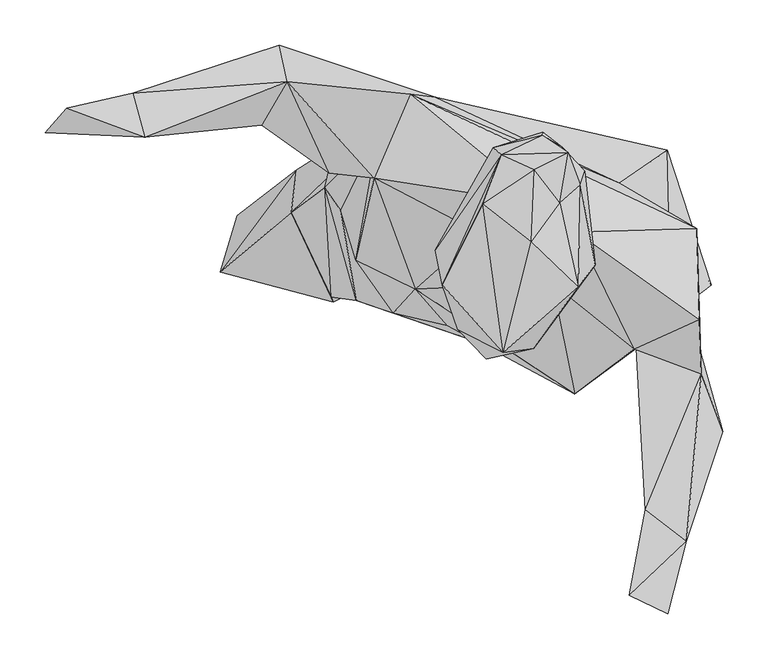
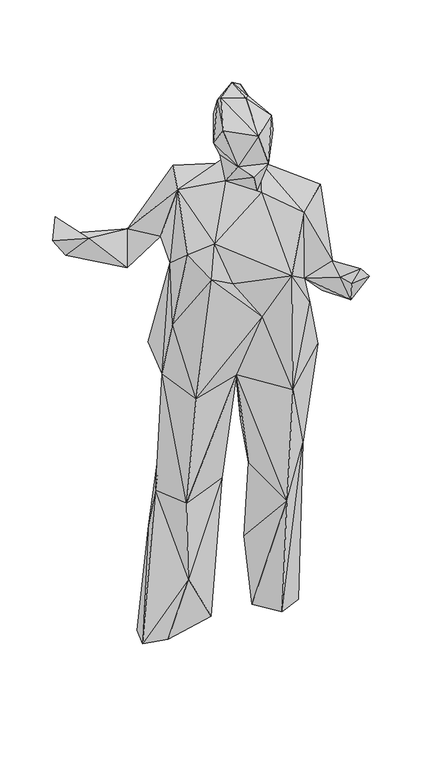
"""IFC4 building model written with IfcOpenShell, lengths in millimetres: geographic element geometry, Enscape AssetDefinition - Aamina 002 Standing : Enscape AssetDefinition - Aamina 002 Standing."""

import ifcopenshell
import ifcopenshell.guid

model = None  # the IFC model being written
_history = None  # IfcOwnerHistory: only IFC2X3 demands one
_inside = {}  # id of a spatial element -> (the spatial element, [elements in it])
_under = {}  # id of a project, library or spatial element -> (it, [spatial elements below it])
_declared = {}  # id of a project -> (the project, [libraries it declares])
_typed = {}  # id of a type object -> (the type object, [elements of that type])
_made_of = {}  # id of a material, layer set ... -> (it, [elements and type objects made of it])


def new_model(schema):
    """Start an empty IFC model of exactly this schema.

    Asked for "IFC4X3", IfcOpenShell would pick the latest addendum, in which some entities
    have other attributes; the version numbers below select the first issue.
    IFC2X3 requires an IfcOwnerHistory on every rooted entity: one is made here for all.
    """
    global model, _history
    if schema == "IFC4X3":
        model = ifcopenshell.file(schema_version=(4, 3, 0, 0))
    else:
        model = ifcopenshell.file(schema=schema)
    _inside.clear()
    _under.clear()
    _declared.clear()
    _typed.clear()
    _made_of.clear()
    _history = None
    if model.schema == "IFC2X3":
        org = make("IfcOrganization", Name="unknown")
        user = make(
            "IfcPersonAndOrganization",
            ThePerson=make("IfcPerson", FamilyName="unknown"),
            TheOrganization=org,
        )
        app = make(
            "IfcApplication",
            ApplicationDeveloper=org,
            Version="unknown",
            ApplicationFullName="unknown",
            ApplicationIdentifier="unknown",
        )
        _history = make(
            "IfcOwnerHistory",
            OwningUser=user,
            OwningApplication=app,
            ChangeAction="ADDED",
            CreationDate=0,
        )
    return model


def make(cls, **values):
    """One entity of the class cls with the attributes given. An attribute that is None is left unset."""
    return model.create_entity(
        cls, **{name: value for name, value in values.items() if value is not None}
    )


def rooted(cls, **values):
    """An entity with a GlobalId (a new one), such as an element, a storey or a relation."""
    return make(cls, GlobalId=ifcopenshell.guid.new(), OwnerHistory=_history, **values)


def si_unit(unit_type, name, prefix=None):
    """IfcSIUnit, for example si_unit("LENGTHUNIT", "METRE", prefix="MILLI")."""
    return make("IfcSIUnit", UnitType=unit_type, Prefix=prefix, Name=name)


def assignment(units):
    """IfcUnitAssignment: the units of a project."""
    return None if units is None else make("IfcUnitAssignment", Units=units)


def point(xyz):
    """IfcCartesianPoint."""
    return None if xyz is None else make("IfcCartesianPoint", Coordinates=xyz)


def direction(xyz):
    """IfcDirection."""
    return None if xyz is None else make("IfcDirection", DirectionRatios=xyz)


def frame(location, z_axis=None, x_axis=None):
    """IfcAxis2Placement3D, a coordinate frame: its origin and axes. An axis left out is left unset."""
    return make(
        "IfcAxis2Placement3D",
        Location=point(location),
        Axis=direction(z_axis),
        RefDirection=direction(x_axis),
    )


def origin():
    """The frame at (0, 0, 0) with its axes left unset."""
    return frame((0.0, 0.0, 0.0))


def place(relative_to, where):
    """IfcLocalPlacement: puts the frame where relative to a parent placement (None: the world)."""
    return make(
        "IfcLocalPlacement", PlacementRelTo=relative_to, RelativePlacement=where
    )


def context(
    kind, dimensions, precision=None, world=None, true_north=None, identifier=None
):
    """IfcGeometricRepresentationContext, for example the 3D "Model" context."""
    return make(
        "IfcGeometricRepresentationContext",
        ContextIdentifier=identifier,
        ContextType=kind,
        CoordinateSpaceDimension=dimensions,
        Precision=precision,
        WorldCoordinateSystem=world,
        TrueNorth=true_north,
    )


def project(units=None, contexts=None):
    """IfcProject with its units and contexts."""
    return rooted(
        "IfcProject",
        Name="project",
        RepresentationContexts=contexts,
        UnitsInContext=assignment(units),
    )


def spatial(cls, under=None, at=None, **own):
    """A site, building, storey or space (cls), placed at a placement, below another one or the project."""
    s = rooted(cls, ObjectPlacement=at, **own)
    if under is not None:
        _under.setdefault(under.id(), (under, []))[1].append(s)
    return s


def point_list(points):
    """IfcCartesianPointList2D or 3D."""
    cls = (
        "IfcCartesianPointList2D" if len(points[0]) == 2 else "IfcCartesianPointList3D"
    )
    return make(cls, CoordList=points)


def triangles(points, corners, closed=None, point_numbers=None):
    """IfcTriangulatedFaceSet: each triangle names its three corners, points numbered from 1."""
    return make(
        "IfcTriangulatedFaceSet",
        Coordinates=point_list(points),
        Closed=closed,
        CoordIndex=corners,
        PnIndex=point_numbers,
    )


def shape(context_of_items, identifier, shape_type, items):
    """IfcShapeRepresentation: the items that make up one representation, for example the "Body"."""
    return make(
        "IfcShapeRepresentation",
        ContextOfItems=context_of_items,
        RepresentationIdentifier=identifier,
        RepresentationType=shape_type,
        Items=items,
    )


def source(mapping_origin, context_of_items, identifier, shape_type, items):
    """IfcRepresentationMap: a shape defined once, which mapped items show again and again."""
    return make(
        "IfcRepresentationMap",
        MappingOrigin=mapping_origin,
        MappedRepresentation=shape(context_of_items, identifier, shape_type, items),
    )


def transform(
    local_origin,
    x_axis=None,
    y_axis=None,
    z_axis=None,
    scale=None,
    scale2=None,
    scale3=None,
    uniform=True,
):
    """IfcCartesianTransformationOperator3D, or its non-uniform kind. x_axis, y_axis, z_axis: its Axis1, 2, 3."""
    if uniform:
        return make(
            "IfcCartesianTransformationOperator3D",
            Axis1=direction(x_axis),
            Axis2=direction(y_axis),
            LocalOrigin=point(local_origin),
            Scale=scale,
            Axis3=direction(z_axis),
        )
    return make(
        "IfcCartesianTransformationOperator3DnonUniform",
        Axis1=direction(x_axis),
        Axis2=direction(y_axis),
        LocalOrigin=point(local_origin),
        Scale=scale,
        Axis3=direction(z_axis),
        Scale2=scale2,
        Scale3=scale3,
    )


def mapped(mapping_source, mapping_target):
    """IfcMappedItem: shows the shape of a source again, moved by a transform."""
    return make(
        "IfcMappedItem", MappingSource=mapping_source, MappingTarget=mapping_target
    )


def made_of(thing, what):
    """Note that an element or type object is made of a material, layer set ...; save() writes the relation."""
    if what is not None:
        _made_of.setdefault(what.id(), (what, []))[1].append(thing)
    return thing


def element(
    cls,
    number,
    at=None,
    inside=None,
    cuts=None,
    type_object=None,
    material=None,
    context=None,
    identifier="Body",
    shape_type=None,
    held_by="IfcProductDefinitionShape",
    body=None,
    shapes=None,
    **own,
):
    """One element of the class cls, such as IfcWall. Its Tag is "e" and its number.

    at: its placement. inside: the storey or other place that contains it. cuts: it is an
    opening in that element (IfcRelVoidsElement). A single representation is given by context,
    identifier, shape_type and body (its items); several are given by shapes. held_by: the class
    of the entity that holds the representations. save() writes the other relations.
    """
    e = rooted(cls, Tag="e%d" % number, ObjectPlacement=at, **own)
    if body is not None:
        shapes = [shape(context, identifier, shape_type, body)]
    if shapes is not None:
        e.Representation = make(held_by, Representations=shapes)
    if inside is not None:
        _inside.setdefault(inside.id(), (inside, []))[1].append(e)
    if cuts is not None:
        rooted(
            "IfcRelVoidsElement", RelatingBuildingElement=cuts, RelatedOpeningElement=e
        )
    if type_object is not None:
        _typed.setdefault(type_object.id(), (type_object, []))[1].append(e)
    return made_of(e, material)


def aggregate(whole, parts):
    """IfcRelAggregates: a whole, such as a stair, and the parts it consists of."""
    return rooted("IfcRelAggregates", RelatingObject=whole, RelatedObjects=parts)


def save(model, path):
    """Write the relations noted so far, then the file.

    IfcRelAggregates (storeys below a building ...), IfcRelContainedInSpatialStructure (elements
    in a storey), IfcRelDefinesByType, IfcRelAssociatesMaterial and IfcRelDeclares: one each for
    every whole, place, type object, material and project.
    """
    for whole, parts in _under.values():
        aggregate(whole, parts)
    for where, things in _inside.values():
        rooted(
            "IfcRelContainedInSpatialStructure",
            RelatedElements=things,
            RelatingStructure=where,
        )
    for kind, things in _typed.values():
        rooted("IfcRelDefinesByType", RelatedObjects=things, RelatingType=kind)
    for what, things in _made_of.values():
        rooted("IfcRelAssociatesMaterial", RelatedObjects=things, RelatingMaterial=what)
    for by, libraries in _declared.values():
        rooted("IfcRelDeclares", RelatingContext=by, RelatedDefinitions=libraries)
    model.write(path)


def geographic_element_7a6157a8(model_context):
    return source(origin(), model_context, "Body", "Tessellation", [
        triangles([(-286.2879032, 56.8786548, 0.0), (-267.5059646, 119.5662847, 0.0), (-156.4158523, 142.5589582, 0.0), (-215.3267368, 40.3248687, 0.0), (-207.8792081, 122.7778165, 444.6567613), (-59.374251, 76.7767635, 0.0), (-161.0547588, 23.2634647, 190.6951007), (-117.2020394, 167.8458777, 213.0751664), (-10.1413096, 101.2964514, 430.1234914), (56.8422199, 145.2798223, 753.9010757), (-201.9893241, 169.8431577, 297.1838406), (-12.6399557, 206.8867541, 695.1432524), (-163.4001825, 28.8436337, 441.2960652), (-170.4568738, 150.3840529, 802.3141817), (-139.23794, 280.7448731, 820.0744349), (-152.64795, 124.6617494, 977.7834131), (-135.6502502, 25.0715143, 783.5436705), (-14.7996973, 11.9191115, 828.7244883), (-111.3427223, 209.279486, 1117.3052748), (-94.3609191, 11.3115643, 1174.4711168), (-34.471263, -2.7062611, 1147.7651888), (107.3156607, -79.1267472, 1172.5502312), (39.3175084, -35.0512081, 1032.095941), (109.5417694, 101.1116971, 1444.3558788), (175.653141, -28.4830407, 1109.0399363), (173.207687, -28.8832638, 1330.3642902), (37.2887396, -8.2387311, 1436.6230659), (82.0994037, 44.1557123, 1384.4877308), (-69.8507418, 37.6706317, 1270.2697025), (61.8573162, -28.1801772, 1532.2358345), (8.9910545, -40.2790049, 1511.771386), (-22.4942415, -7.0787768, 1536.4992371), (-24.568445, 86.9169421, 1520.3403397), (27.9975916, -32.8678748, 1636.7080914), (90.6410698, 133.9305151, 1648.7143353), (58.9510074, 90.1676431, 1677.9605152), (110.94549, 40.5695395, 1634.1130463), (5.110009, 132.3684284, 1672.2771412), (-40.0749249, 42.0651195, 1633.559301), (25.4979054, 186.8710427, 1625.8168957), (62.4072145, 170.5536158, 1682.3144646), (99.9304011, 188.983868, 1650.8118816), (113.5096685, 153.553963, 1612.6806335), (71.0433335, 208.844865, 1602.3581532), (93.424094, 195.0957406, 1587.2375645), (16.7899749, 194.5312765, 1577.5987633), (4.0860512, 169.7161124, 1537.636813), (71.9386776, 211.8643754, 1549.032629), (108.7847934, 155.4522301, 1528.5330082), (62.6628267, 177.8762429, 1526.286779), (118.4584762, 168.4634999, 1567.1037643), (129.8197195, 64.0531397, 1564.8475067), (3.8723557, 150.3383072, 1494.7948059), (-47.8224398, 81.0091632, 1573.0034042), (82.6886029, 144.9010119, 1480.699736), (42.3561628, 136.4260931, 1476.1767563), (-75.4188976, 254.1636467, 1402.257431), (0.6947649, 100.6713987, 1416.3741566), (-136.1923229, 69.8127809, 1237.2227371), (209.7489886, 192.2548529, 797.4733435), (-115.4291189, 161.1116412, 1391.1970596), (-165.310967, 166.632725, 1249.7886852), (-240.3617276, 219.8855065, 1138.4393045), (-370.423211, 206.7659039, 1290.3330128), (-428.9591002, 229.2330827, 1241.4535835), (-383.5343293, 255.2413063, 1283.954187), (-457.1522558, 238.7697463, 1373.0606667), (-212.2938187, 267.8703319, 1229.2784546), (-220.9764828, 308.8370719, 1118.2254221), (-481.0519598, 211.2048227, 1318.4757717), (-47.6295146, 250.7575501, 1283.4222427), (156.7023718, 155.6133395, 1022.2088264), (214.4395998, 8.5669235, 992.5690659), (-74.8191477, 249.8812955, 820.559071), (127.8470928, -49.0089181, 766.3193584), (189.2653188, 52.0506292, 1177.0868002), (242.6580082, 104.6864425, 1292.9338715), (203.0505421, -234.100827, 1152.5053064), (185.2511016, -207.7346312, 1216.6202156), (247.6086508, -56.4487892, 1158.9484451), (241.0500213, -11.6838163, 1036.0740412), (245.5668059, 3.820177, 1377.8922031), (271.812297, -120.7747865, 1134.9557962), (230.9868819, -242.6573905, 1251.6035454), (210.4373368, -323.1660301, 1282.3106827), (167.549693, -302.5486113, 1258.6621262), (216.2820927, 127.064537, 582.4627393), (193.3653048, 10.9315729, 529.5843535), (258.8642319, 41.9606973, 818.1677198), (74.9894225, 146.3112274, 568.9655617), (188.3706242, 164.8930964, 801.2968746), (138.7494797, 183.5688642, 403.1746639), (146.588963, 183.6822112, 0.0), (52.1605925, 64.7765694, 481.3182226), (98.0646719, 168.9325483, 157.1700032), (119.5361084, -30.3658405, 388.0792554), (66.917745, 69.8715527, 0.0), (188.900897, 27.6753592, 0.0), (120.3215801, -2.1374835, 0.0)], [[99, 98, 88], [98, 99, 97], [96, 99, 88], [97, 99, 96], [75, 96, 88], [18, 96, 75], [18, 94, 96], [96, 94, 95], [96, 95, 97], [97, 95, 93], [88, 98, 93], [98, 97, 93], [93, 95, 92], [92, 95, 94], [90, 92, 94], [90, 94, 18], [93, 87, 88], [92, 90, 87], [92, 87, 93], [87, 90, 91], [89, 75, 88], [91, 89, 87], [87, 89, 88], [86, 78, 85], [86, 85, 84], [78, 84, 85], [84, 78, 83], [83, 78, 81], [80, 81, 77], [77, 82, 80], [81, 80, 83], [83, 80, 84], [79, 86, 84], [86, 79, 78], [80, 79, 84], [77, 81, 25], [81, 78, 25], [79, 80, 25], [78, 79, 25], [25, 76, 77], [73, 76, 25], [73, 75, 89], [89, 91, 60], [73, 89, 60], [74, 60, 91], [72, 73, 60], [72, 77, 76], [73, 72, 76], [57, 77, 72], [61, 57, 68], [72, 60, 71], [57, 72, 71], [71, 68, 57], [66, 70, 67], [68, 71, 69], [66, 68, 69], [66, 65, 70], [66, 69, 65], [66, 67, 64], [66, 64, 68], [70, 64, 67], [64, 70, 65], [63, 65, 69], [63, 64, 65], [63, 69, 71], [68, 64, 63], [61, 68, 62], [68, 63, 62], [62, 63, 71], [60, 19, 71], [60, 74, 19], [74, 15, 19], [71, 19, 62], [61, 62, 19], [61, 19, 59], [29, 61, 59], [58, 61, 29], [58, 56, 61], [33, 56, 58], [82, 77, 24], [57, 61, 24], [57, 24, 77], [61, 56, 24], [24, 56, 55], [33, 53, 56], [56, 53, 55], [33, 54, 53], [54, 47, 53], [53, 50, 55], [53, 47, 50], [55, 50, 49], [49, 52, 55], [55, 52, 24], [51, 52, 49], [48, 45, 51], [50, 47, 48], [48, 49, 50], [51, 49, 48], [48, 47, 46], [47, 54, 46], [46, 44, 48], [48, 44, 45], [45, 44, 43], [51, 43, 52], [43, 51, 45], [42, 43, 44], [43, 42, 35], [35, 42, 41], [40, 41, 42], [40, 44, 46], [40, 46, 54], [40, 42, 44], [54, 39, 40], [39, 38, 40], [41, 40, 38], [41, 36, 35], [41, 38, 36], [52, 43, 37], [37, 35, 36], [35, 37, 43], [37, 36, 34], [36, 38, 34], [34, 38, 39], [39, 54, 32], [39, 32, 34], [32, 54, 33], [33, 58, 32], [30, 52, 37], [30, 37, 34], [30, 24, 52], [30, 34, 32], [58, 31, 32], [32, 31, 30], [31, 58, 27], [27, 24, 30], [31, 27, 30], [28, 58, 29], [27, 28, 24], [28, 27, 58], [25, 80, 26], [82, 24, 26], [26, 80, 82], [26, 24, 28], [22, 28, 29], [22, 26, 28], [25, 26, 22], [25, 22, 73], [73, 22, 75], [29, 21, 22], [23, 75, 22], [21, 23, 22], [18, 75, 23], [29, 20, 21], [21, 20, 23], [20, 29, 59], [20, 59, 16], [59, 19, 16], [18, 23, 17], [20, 17, 23], [17, 20, 16], [14, 16, 19], [14, 19, 15], [15, 74, 14], [17, 16, 14], [14, 74, 5], [7, 13, 5], [17, 13, 18], [14, 13, 17], [13, 14, 5], [9, 18, 13], [9, 13, 7], [10, 90, 18], [18, 9, 10], [91, 90, 10], [10, 12, 91], [12, 74, 91], [74, 12, 11], [5, 74, 11], [10, 8, 12], [12, 8, 11], [8, 10, 9], [6, 8, 9], [9, 7, 6], [3, 8, 6], [2, 8, 3], [8, 2, 11], [1, 11, 2], [5, 11, 1], [5, 1, 7], [7, 4, 6], [2, 3, 4], [4, 1, 2], [3, 6, 4], [4, 7, 1]]),
    ])


if __name__ == "__main__":
    model = new_model("IFC4")
    model_context = context("Model", 3, world=origin())
    ifc_project = project(units=[si_unit("LENGTHUNIT", "METRE", prefix="MILLI")], contexts=[model_context])
    site = spatial("IfcSite", under=ifc_project)
    building = spatial("IfcBuilding", under=site)
    placement = place(None, origin())
    geographic_element_shape = geographic_element_7a6157a8(model_context)
    element("IfcGeographicElement", 1, ObjectType="Enscape AssetDefinition - Aamina 002 Standing : Enscape AssetDefinition - Aamina 002 Standing", at=placement, inside=building, context=model_context, shape_type="MappedRepresentation", body=[
        mapped(geographic_element_shape, transform((0.0, 0.0, 0.0), x_axis=(1.0, 0.0, 0.0), y_axis=(0.0, 1.0, 0.0), z_axis=(0.0, 0.0, 1.0))),
    ])
    save(model, "model.ifc")
